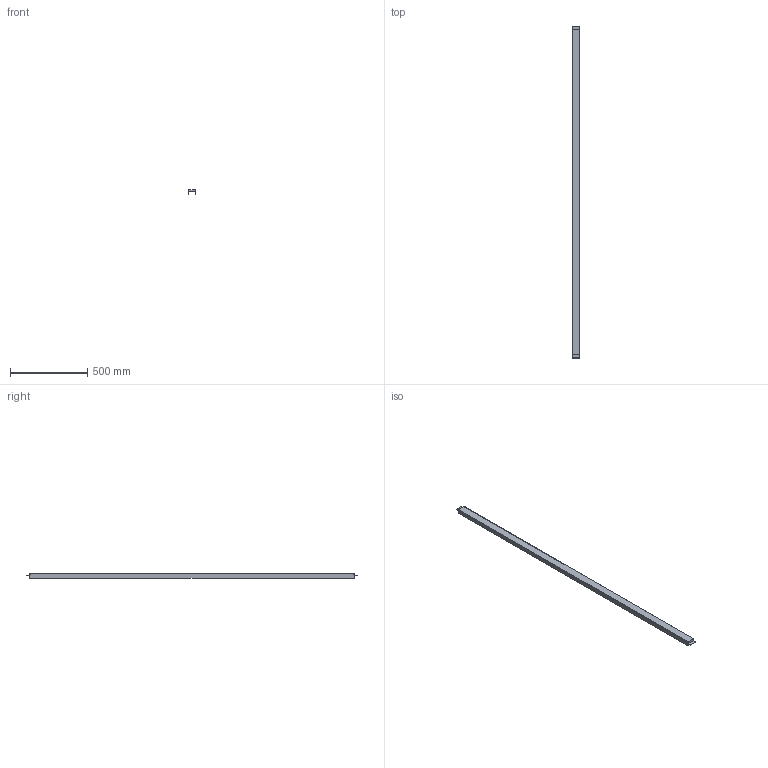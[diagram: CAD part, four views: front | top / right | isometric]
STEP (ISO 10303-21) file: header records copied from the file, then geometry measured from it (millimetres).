
FILE_DESCRIPTION( ( 'STEP AP214' ), '1' );
FILE_NAME( 'p:/temp/worker_140/temp/exporttempdir_3884_65_OtzNy/format_0/HP2200(0).stp', '2021-03-15T19:05:11', ( 'License CC BY-ND 4.0' ), ( 'CADENAS' ), ' ', 'PARTsolutions', ' ' );
FILE_SCHEMA( ( 'AUTOMOTIVE_DESIGN { 1 0 10303 214 1 1 1 1 }' ) );
Length unit declared in the file: millimetre
Products named in the file (1): _HP2200(0)
Bounding box: 50 x 2155 x 30 mm (x, y, z)
Volume: 452914.2 mm3; surface area: 462081.4 mm2
Topology: 1 solids, 1 shells, 42 faces, 116 edges, 76 vertices
Faces by surface type: plane 42
Entity records: 1660 total; most frequent: CARTESIAN_POINT 235, ORIENTED_EDGE 232, DIRECTION 202, EDGE_CURVE 116, LINE 116, VECTOR 116, VERTEX_POINT 76, AXIS2_PLACEMENT_3D 43
